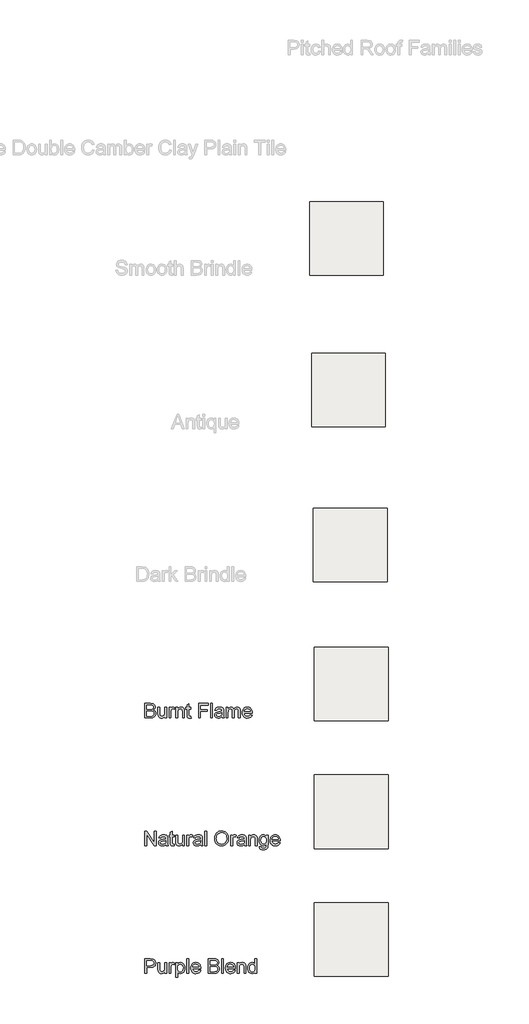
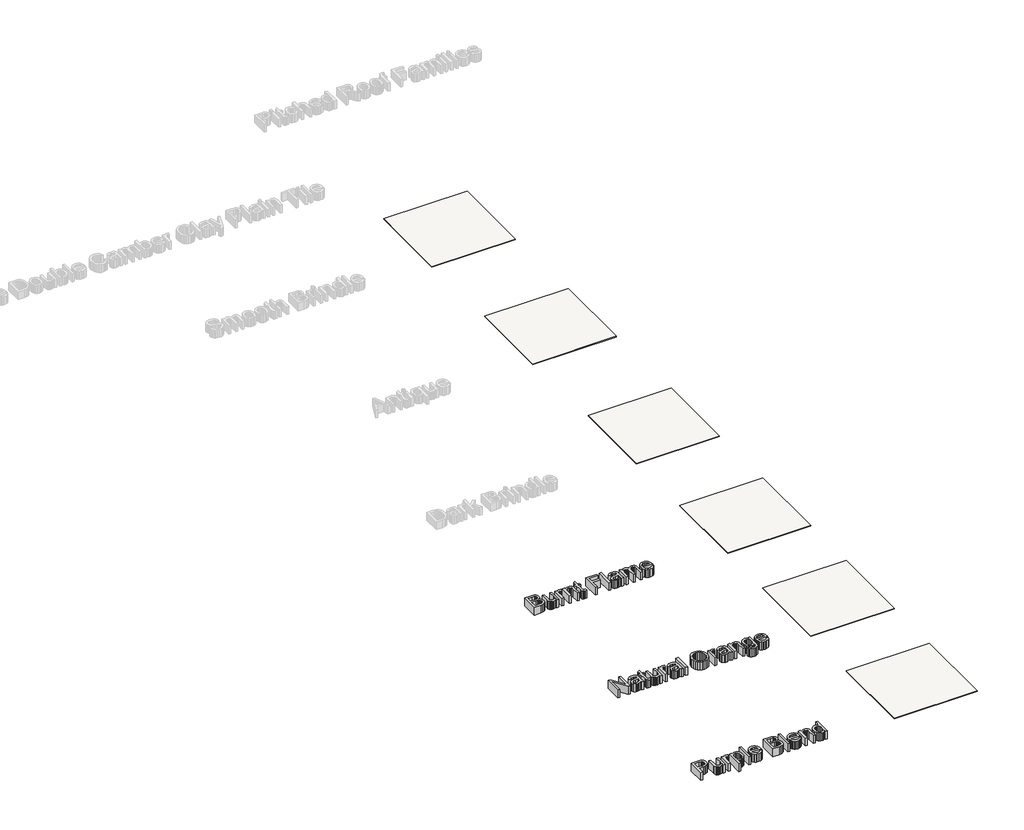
# One storey, part 1 of 4: 6 coverings, 3 proxies.
"""IFC4 building model written with IfcOpenShell, lengths in millimetres."""

from ifc_helpers import new_model, si_unit, frame, origin, place, context, project, spatial, polyline, outline, extrude, element, save

model = new_model("IFC4")

# Units and contexts
model_context = context("Model", 3, world=origin())
ifc_project = project(units=[si_unit("LENGTHUNIT", "METRE", prefix="MILLI")], contexts=[model_context])

# Site, building, storey
site = spatial("IfcSite", under=ifc_project)
building = spatial("IfcBuilding", under=site)
storey = spatial("IfcBuildingStorey", under=building, Name="Marley Clay Plain Tile", Elevation=3000.0)

# Proxies
placement = place(None, origin())
element("IfcBuildingElementProxy", 1, Name="600mm Arial", ObjectType="600mm Arial", at=placement, inside=storey, context=model_context, shape_type="SweptSolid", body=[
    extrude(outline(polyline([(-13817.1739983, -5893.9206407), (-13817.1739983, -5598.5360253), (-13704.4576522, -5598.5360253), (-13673.4570512, -5600.7085012), (-13649.2533253, -5607.2259291), (-13630.7016426, -5618.2505685), (-13616.6571714, -5633.9446791), (-13607.8140224, -5652.4062176), (-13604.866306, -5671.7331407), (-13607.3452724, -5689.5185974), (-13614.7821714, -5706.2403522), (-13627.2310897, -5720.8707608), (-13644.7461137, -5732.3821791), (-13623.8236378, -5743.3076599), (-13608.3639022, -5759.930256), (-13598.8176281, -5781.150208), (-13595.6355368, -5805.867756), (-13597.8080128, -5826.4657128), (-13604.3254406, -5845.5672753), (-13614.0520031, -5861.8112657), (-13625.8518829, -5873.836506), (-13640.3020031, -5882.5444387), (-13657.9792868, -5888.836506), (-13705.3230368, -5893.9206407), (-13817.1739983, -5893.9206407)]), holes=[polyline([(-13780.2509214, -5718.5360253), (-13712.8230368, -5718.5360253), (-13673.4480368, -5715.3629483), (-13659.6649839, -5709.8911935), (-13649.7581329, -5701.697083), (-13643.7815704, -5690.9068185), (-13641.7893829, -5677.6466022), (-13643.6463541, -5664.774006), (-13649.2172676, -5653.5600637), (-13658.2497195, -5644.8070589), (-13670.491306, -5639.3172753), (-13717.9432291, -5635.4591022), (-13780.2509214, -5635.4591022), (-13780.2509214, -5718.5360253)]), polyline([(-13780.2509214, -5856.9975637), (-13704.5297676, -5856.9975637), (-13677.1259214, -5855.555256), (-13653.9408253, -5847.5143907), (-13638.5802483, -5831.1081407), (-13634.0640224, -5819.5155926), (-13632.5586137, -5806.228333), (-13634.3254406, -5790.7956407), (-13639.6259214, -5777.5264099), (-13648.8837339, -5767.1508089), (-13662.522556, -5760.399006), (-13681.8404647, -5756.6940782), (-13708.1355368, -5755.4591022), (-13780.2509214, -5755.4591022), (-13780.2509214, -5856.9975637)])]), frame((0.0, 0.0, 3000.0), z_axis=(0.0, 0.0, 1.0), x_axis=(1.0, 0.0, 0.0)), (0.0, 0.0, 1.0), 150.0),
    extrude(outline(polyline([(-13411.0201522, -5893.9206407), (-13411.0201522, -5856.6369868), (-13424.3795272, -5874.9678161), (-13439.9384214, -5888.0612657), (-13457.6968349, -5895.9173354), (-13477.6547676, -5898.5360253), (-13495.6385416, -5896.697083), (-13512.3783253, -5891.180256), (-13526.4227964, -5882.8869868), (-13536.3206329, -5872.7187176), (-13547.3182291, -5845.5312176), (-13549.4816906, -5811.2042945), (-13549.4816906, -5676.9975637), (-13512.5586137, -5676.9975637), (-13512.5586137, -5793.8244868), (-13510.3230368, -5831.4687176), (-13504.9414262, -5844.0258089), (-13495.7196714, -5853.572083), (-13483.2707531, -5859.602732), (-13468.2076522, -5861.6129483), (-13452.2791666, -5859.5576599), (-13437.3783253, -5853.3917945), (-13425.0916666, -5843.6832608), (-13417.0057291, -5830.9999676), (-13412.5165464, -5813.6291743), (-13411.0201522, -5789.8581407), (-13411.0201522, -5676.9975637), (-13374.0970753, -5676.9975637), (-13374.0970753, -5893.9206407), (-13411.0201522, -5893.9206407)])), frame((0.0, 0.0, 3000.0), z_axis=(0.0, 0.0, 1.0), x_axis=(1.0, 0.0, 0.0)), (0.0, 0.0, 1.0), 150.0),
    extrude(outline(polyline([(-13323.3278445, -5893.9206407), (-13323.3278445, -5676.9975637), (-13291.0201522, -5676.9975637), (-13291.0201522, -5709.0889099), (-13279.085056, -5690.4831407), (-13268.0874599, -5679.5216022), (-13257.053806, -5674.1670349), (-13245.0105368, -5672.3821791), (-13226.6211137, -5675.2307368), (-13207.9432291, -5683.7764099), (-13220.2749599, -5716.8773714), (-13233.2557291, -5711.1982849), (-13246.2364983, -5709.305256), (-13257.2611378, -5711.1261695), (-13267.1139022, -5716.5889099), (-13275.0736378, -5725.2788137), (-13280.4191906, -5736.7812176), (-13284.9083733, -5757.4062176), (-13286.4047676, -5779.9062176), (-13286.4047676, -5893.9206407), (-13323.3278445, -5893.9206407)])), frame((0.0, 0.0, 3000.0), z_axis=(0.0, 0.0, 1.0), x_axis=(1.0, 0.0, 0.0)), (0.0, 0.0, 1.0), 150.0),
    extrude(outline(polyline([(-13184.866306, -5893.9206407), (-13184.866306, -5676.9975637), (-13147.9432291, -5676.9975637), (-13147.9432291, -5707.2860253), (-13135.1157051, -5692.0155926), (-13119.710056, -5681.1081407), (-13101.726282, -5674.5636695), (-13081.1643829, -5672.3821791), (-13062.9642628, -5674.1399916), (-13046.2965945, -5679.4134291), (-13032.3963541, -5687.5444387), (-13022.4985176, -5697.8749676), (-13011.428806, -5725.0264099), (-13009.4816906, -5760.7235253), (-13009.4816906, -5893.9206407), (-13046.4047676, -5893.9206407), (-13046.4047676, -5765.6994868), (-13050.6595753, -5733.0312176), (-13056.5459935, -5723.3046551), (-13065.6956329, -5715.759583), (-13077.4233974, -5710.9188378), (-13091.0441906, -5709.305256), (-13112.6697916, -5712.9290541), (-13131.1042868, -5723.8004483), (-13138.4713241, -5732.6751479), (-13143.7334935, -5744.8040541), (-13147.9432291, -5778.8244868), (-13147.9432291, -5893.9206407), (-13184.866306, -5893.9206407)])), frame((0.0, 0.0, 3000.0), z_axis=(0.0, 0.0, 1.0), x_axis=(1.0, 0.0, 0.0)), (0.0, 0.0, 1.0), 150.0),
    extrude(outline(polyline([(-12880.2509214, -5863.1273714), (-12875.6355368, -5895.0023714), (-12903.2557291, -5898.5360253), (-12920.9780849, -5897.0035733), (-12934.1932291, -5892.4062176), (-12943.5321714, -5885.320881), (-12949.6259214, -5876.3244868), (-12952.9792868, -5860.8737657), (-12954.0970753, -5834.4254483), (-12954.0970753, -5713.9206407), (-12981.7893829, -5713.9206407), (-12981.7893829, -5676.9975637), (-12954.0970753, -5676.9975637), (-12954.0970753, -5624.2812176), (-12917.1739983, -5602.5744868), (-12917.1739983, -5676.9975637), (-12880.2509214, -5676.9975637), (-12880.2509214, -5713.9206407), (-12917.1739983, -5713.9206407), (-12917.1739983, -5833.3437176), (-12915.2268829, -5852.3821791), (-12908.9167868, -5859.1249676), (-12896.3326522, -5861.6129483), (-12880.2509214, -5863.1273714)])), frame((0.0, 0.0, 3000.0), z_axis=(0.0, 0.0, 1.0), x_axis=(1.0, 0.0, 0.0)), (0.0, 0.0, 1.0), 150.0),
    extrude(outline(polyline([(-12723.3278445, -5893.9206407), (-12723.3278445, -5598.5360253), (-12524.866306, -5598.5360253), (-12524.866306, -5635.4591022), (-12686.4047676, -5635.4591022), (-12686.4047676, -5723.1514099), (-12547.9432291, -5723.1514099), (-12547.9432291, -5760.0744868), (-12686.4047676, -5760.0744868), (-12686.4047676, -5893.9206407), (-12723.3278445, -5893.9206407)])), frame((0.0, 0.0, 3000.0), z_axis=(0.0, 0.0, 1.0), x_axis=(1.0, 0.0, 0.0)), (0.0, 0.0, 1.0), 150.0),
    extrude(outline(polyline([(-12478.7124599, -5893.9206407), (-12478.7124599, -5598.5360253), (-12441.7893829, -5598.5360253), (-12441.7893829, -5893.9206407), (-12478.7124599, -5893.9206407)])), frame((0.0, 0.0, 3000.0), z_axis=(0.0, 0.0, 1.0), x_axis=(1.0, 0.0, 0.0)), (0.0, 0.0, 1.0), 150.0),
    extrude(outline(polyline([(-12247.9432291, -5866.228333), (-12265.5844551, -5881.3545349), (-12283.7485176, -5891.2523714), (-12302.8500801, -5896.7151118), (-12323.303806, -5898.5360253), (-12354.1601762, -5894.1550157), (-12376.9215945, -5881.0119868), (-12390.9570512, -5861.0540541), (-12395.6355368, -5836.228333), (-12393.8687099, -5820.9218426), (-12388.5682291, -5807.0216022), (-12380.3921474, -5795.1225637), (-12369.9985176, -5785.8196791), (-12344.1451522, -5773.7042945), (-12312.1980368, -5768.1514099), (-12274.4456329, -5762.3100637), (-12248.1595753, -5755.4591022), (-12247.9432291, -5747.2379483), (-12250.4852964, -5730.759583), (-12258.1114983, -5719.978333), (-12275.1667868, -5711.9735253), (-12298.928806, -5709.305256), (-12320.9239983, -5711.0810974), (-12336.2845753, -5716.4086214), (-12346.7593349, -5726.2613858), (-12354.0970753, -5741.6129483), (-12391.0201522, -5736.9975637), (-12384.6108974, -5716.805256), (-12375.0465945, -5700.9398714), (-12361.4348156, -5688.806458), (-12342.8831329, -5679.8100637), (-12320.1938301, -5674.2391503), (-12294.1691906, -5672.3821791), (-12269.2082531, -5674.0228041), (-12249.4215945, -5678.9446791), (-12234.5027243, -5686.3455205), (-12224.1451522, -5695.4230445), (-12217.2761618, -5706.6460012), (-12212.8230368, -5720.4831407), (-12211.0201522, -5752.790833), (-12211.0201522, -5798.728333), (-12209.1451522, -5862.8749676), (-12201.7893829, -5893.9206407), (-12238.7124599, -5893.9206407), (-12247.9432291, -5866.228333)]), holes=[polyline([(-12247.9432291, -5792.3821791), (-12307.5105368, -5803.7042945), (-12339.2773637, -5809.6898714), (-12353.6643829, -5819.4254483), (-12358.7124599, -5833.6321791), (-12355.9630608, -5844.6117464), (-12347.7148637, -5853.6081407), (-12334.148157, -5859.6117464), (-12315.4432291, -5861.6129483), (-12295.6114983, -5859.4044147), (-12278.0874599, -5852.7788137), (-12263.8807291, -5843.0161935), (-12254.0009214, -5831.3966022), (-12249.6199118, -5819.4254483), (-12248.1595753, -5802.8389099), (-12247.9432291, -5792.3821791)])]), frame((0.0, 0.0, 3000.0), z_axis=(0.0, 0.0, 1.0), x_axis=(1.0, 0.0, 0.0)), (0.0, 0.0, 1.0), 150.0),
    extrude(outline(polyline([(-12160.2509214, -5893.9206407), (-12160.2509214, -5676.9975637), (-12123.3278445, -5676.9975637), (-12123.3278445, -5712.6946791), (-12112.2220753, -5696.2974435), (-12097.9432291, -5683.4518907), (-12080.9780849, -5675.149607), (-12061.8134214, -5672.3821791), (-12041.2785656, -5675.2036935), (-12024.8182291, -5683.6682368), (-12012.522556, -5697.2169147), (-12004.4816906, -5715.290833), (-11991.023157, -5696.5182969), (-11975.6715945, -5683.1093426), (-11958.4270031, -5675.06397), (-11939.2893829, -5672.3821791), (-11911.5339743, -5676.8443185), (-11891.0081329, -5690.2307368), (-11878.3248397, -5712.9020108), (-11874.0970753, -5745.2187176), (-11874.0970753, -5893.9206407), (-11911.0201522, -5893.9206407), (-11911.0201522, -5761.0841022), (-11914.4456329, -5730.2547753), (-11919.2593349, -5721.7541743), (-11926.8494791, -5715.0744868), (-11936.6120993, -5710.7475637), (-11947.9432291, -5709.305256), (-11967.9462339, -5713.0011695), (-11984.2533253, -5724.0889099), (-11995.0976762, -5743.3256887), (-11998.7124599, -5771.4687176), (-11998.7124599, -5893.9206407), (-12035.6355368, -5893.9206407), (-12035.6355368, -5756.9735253), (-12037.7719551, -5736.0961214), (-12044.1812099, -5721.2042945), (-12055.4582531, -5712.2800157), (-12072.1980368, -5709.305256), (-12086.4227964, -5711.2884291), (-12099.5297676, -5717.2379483), (-12110.3470753, -5727.009583), (-12117.7028445, -5740.4591022), (-12121.9215945, -5759.118958), (-12123.3278445, -5784.5216022), (-12123.3278445, -5893.9206407), (-12160.2509214, -5893.9206407)])), frame((0.0, 0.0, 3000.0), z_axis=(0.0, 0.0, 1.0), x_axis=(1.0, 0.0, 0.0)), (0.0, 0.0, 1.0), 150.0),
    extrude(outline(polyline([(-11666.8374599, -5829.305256), (-11630.6355368, -5833.9206407), (-11643.679407, -5861.1982849), (-11664.4937099, -5881.5889099), (-11692.6096954, -5894.2992464), (-11727.5586137, -5898.5360253), (-11750.46877, -5896.708351), (-11770.881931, -5891.2253282), (-11788.7980969, -5882.0869568), (-11804.2172676, -5869.2932368), (-11816.6166065, -5853.200238), (-11825.4732772, -5834.1640301), (-11830.7872796, -5812.184613), (-11832.5586137, -5787.2619868), (-11830.7692507, -5761.4942584), (-11825.4011618, -5738.7824195), (-11816.4543469, -5719.12647), (-11803.928806, -5702.5264099), (-11788.5502003, -5689.3383089), (-11771.0441906, -5679.9182368), (-11751.4107772, -5674.2661935), (-11729.6499599, -5672.3821791), (-11708.590014, -5674.2616863), (-11689.5447916, -5679.900208), (-11672.5142928, -5689.297744), (-11657.4985176, -5702.4542945), (-11645.2411558, -5719.0182969), (-11636.4858974, -5738.6381887), (-11631.2327423, -5761.31397), (-11629.4816906, -5787.0456407), (-11629.6980368, -5796.9975637), (-11795.6355368, -5796.9975637), (-11789.2443108, -5824.6357849), (-11774.397556, -5844.9542945), (-11752.9702724, -5857.4482849), (-11726.8374599, -5861.6129483), (-11707.1860176, -5859.6838618), (-11690.6355368, -5853.8966022), (-11677.1860176, -5843.8905926), (-11666.8374599, -5829.305256)]), holes=[polyline([(-11795.6355368, -5760.0744868), (-11666.4047676, -5760.0744868), (-11671.3987579, -5740.5672753), (-11681.1884214, -5726.6129483), (-11702.7148637, -5713.6321791), (-11729.7941906, -5709.305256), (-11754.6830128, -5712.7577801), (-11775.2629406, -5723.1153522), (-11789.5688301, -5739.2601839), (-11795.6355368, -5760.0744868)])]), frame((0.0, 0.0, 3000.0), z_axis=(0.0, 0.0, 1.0), x_axis=(1.0, 0.0, 0.0)), (0.0, 0.0, 1.0), 150.0),
])
element("IfcBuildingElementProxy", 2, Name="600mm Arial", ObjectType="600mm Arial", at=placement, inside=storey, context=model_context, shape_type="SweptSolid", body=[
    extrude(outline(polyline([(-13817.1739983, -8493.9206407), (-13817.1739983, -8198.5360253), (-13777.6547676, -8198.5360253), (-13623.3278445, -8432.5504483), (-13623.3278445, -8198.5360253), (-13586.4047676, -8198.5360253), (-13586.4047676, -8493.9206407), (-13625.9239983, -8493.9206407), (-13780.2509214, -8259.8341022), (-13780.2509214, -8493.9206407), (-13817.1739983, -8493.9206407)])), frame((0.0, 0.0, 3000.0), z_axis=(0.0, 0.0, 1.0), x_axis=(1.0, 0.0, 0.0)), (0.0, 0.0, 1.0), 150.0),
    extrude(outline(polyline([(-13387.9432291, -8466.228333), (-13405.5844551, -8481.3545349), (-13423.7485176, -8491.2523714), (-13442.8500801, -8496.7151118), (-13463.303806, -8498.5360253), (-13494.1601762, -8494.1550157), (-13516.9215945, -8481.0119868), (-13530.9570512, -8461.0540541), (-13535.6355368, -8436.228333), (-13533.8687099, -8420.9218426), (-13528.5682291, -8407.0216022), (-13520.3921474, -8395.1225637), (-13509.9985176, -8385.8196791), (-13484.1451522, -8373.7042945), (-13452.1980368, -8368.1514099), (-13414.4456329, -8362.3100637), (-13388.1595753, -8355.4591022), (-13387.9432291, -8347.2379483), (-13390.4852964, -8330.759583), (-13398.1114983, -8319.978333), (-13415.1667868, -8311.9735253), (-13438.928806, -8309.305256), (-13460.9239983, -8311.0810974), (-13476.2845753, -8316.4086214), (-13486.7593349, -8326.2613858), (-13494.0970753, -8341.6129483), (-13531.0201522, -8336.9975637), (-13524.6108974, -8316.805256), (-13515.0465945, -8300.9398714), (-13501.4348156, -8288.806458), (-13482.8831329, -8279.8100637), (-13460.1938301, -8274.2391503), (-13434.1691906, -8272.3821791), (-13409.2082531, -8274.0228041), (-13389.4215945, -8278.9446791), (-13374.5027243, -8286.3455205), (-13364.1451522, -8295.4230445), (-13357.2761618, -8306.6460012), (-13352.8230368, -8320.4831407), (-13351.0201522, -8352.790833), (-13351.0201522, -8398.728333), (-13349.1451522, -8462.8749676), (-13341.7893829, -8493.9206407), (-13378.7124599, -8493.9206407), (-13387.9432291, -8466.228333)]), holes=[polyline([(-13387.9432291, -8392.3821791), (-13447.5105368, -8403.7042945), (-13479.2773637, -8409.6898714), (-13493.6643829, -8419.4254483), (-13498.7124599, -8433.6321791), (-13495.9630608, -8444.6117464), (-13487.7148637, -8453.6081407), (-13474.148157, -8459.6117464), (-13455.4432291, -8461.6129483), (-13435.6114983, -8459.4044147), (-13418.0874599, -8452.7788137), (-13403.8807291, -8443.0161935), (-13394.0009214, -8431.3966022), (-13389.6199118, -8419.4254483), (-13388.1595753, -8402.8389099), (-13387.9432291, -8392.3821791)])]), frame((0.0, 0.0, 3000.0), z_axis=(0.0, 0.0, 1.0), x_axis=(1.0, 0.0, 0.0)), (0.0, 0.0, 1.0), 150.0),
    extrude(outline(polyline([(-13221.7893829, -8463.1273714), (-13217.1739983, -8495.0023714), (-13244.7941906, -8498.5360253), (-13262.5165464, -8497.0035733), (-13275.7316906, -8492.4062176), (-13285.0706329, -8485.320881), (-13291.1643829, -8476.3244868), (-13294.5177483, -8460.8737657), (-13295.6355368, -8434.4254483), (-13295.6355368, -8313.9206407), (-13323.3278445, -8313.9206407), (-13323.3278445, -8276.9975637), (-13295.6355368, -8276.9975637), (-13295.6355368, -8224.2812176), (-13258.7124599, -8202.5744868), (-13258.7124599, -8276.9975637), (-13221.7893829, -8276.9975637), (-13221.7893829, -8313.9206407), (-13258.7124599, -8313.9206407), (-13258.7124599, -8433.3437176), (-13256.7653445, -8452.3821791), (-13250.4552483, -8459.1249676), (-13237.8711137, -8461.6129483), (-13221.7893829, -8463.1273714)])), frame((0.0, 0.0, 3000.0), z_axis=(0.0, 0.0, 1.0), x_axis=(1.0, 0.0, 0.0)), (0.0, 0.0, 1.0), 150.0),
    extrude(outline(polyline([(-13046.4047676, -8493.9206407), (-13046.4047676, -8456.6369868), (-13059.7641426, -8474.9678161), (-13075.3230368, -8488.0612657), (-13093.0814503, -8495.9173354), (-13113.0393829, -8498.5360253), (-13131.023157, -8496.697083), (-13147.7629406, -8491.180256), (-13161.8074118, -8482.8869868), (-13171.7052483, -8472.7187176), (-13182.7028445, -8445.5312176), (-13184.866306, -8411.2042945), (-13184.866306, -8276.9975637), (-13147.9432291, -8276.9975637), (-13147.9432291, -8393.8244868), (-13145.7076522, -8431.4687176), (-13140.3260416, -8444.0258089), (-13131.1042868, -8453.572083), (-13118.6553685, -8459.602732), (-13103.5922676, -8461.6129483), (-13087.663782, -8459.5576599), (-13072.7629406, -8453.3917945), (-13060.476282, -8443.6832608), (-13052.3903445, -8430.9999676), (-13047.9011618, -8413.6291743), (-13046.4047676, -8389.8581407), (-13046.4047676, -8276.9975637), (-13009.4816906, -8276.9975637), (-13009.4816906, -8493.9206407), (-13046.4047676, -8493.9206407)])), frame((0.0, 0.0, 3000.0), z_axis=(0.0, 0.0, 1.0), x_axis=(1.0, 0.0, 0.0)), (0.0, 0.0, 1.0), 150.0),
    extrude(outline(polyline([(-12958.7124599, -8493.9206407), (-12958.7124599, -8276.9975637), (-12926.4047676, -8276.9975637), (-12926.4047676, -8309.0889099), (-12914.4696714, -8290.4831407), (-12903.4720753, -8279.5216022), (-12892.4384214, -8274.1670349), (-12880.3951522, -8272.3821791), (-12862.0057291, -8275.2307368), (-12843.3278445, -8283.7764099), (-12855.6595753, -8316.8773714), (-12868.6403445, -8311.1982849), (-12881.6211137, -8309.305256), (-12892.6457531, -8311.1261695), (-12902.4985176, -8316.5889099), (-12910.4582531, -8325.2788137), (-12915.803806, -8336.7812176), (-12920.2929887, -8357.4062176), (-12921.7893829, -8379.9062176), (-12921.7893829, -8493.9206407), (-12958.7124599, -8493.9206407)])), frame((0.0, 0.0, 3000.0), z_axis=(0.0, 0.0, 1.0), x_axis=(1.0, 0.0, 0.0)), (0.0, 0.0, 1.0), 150.0),
    extrude(outline(polyline([(-12681.7893829, -8466.228333), (-12699.4306089, -8481.3545349), (-12717.5946714, -8491.2523714), (-12736.6962339, -8496.7151118), (-12757.1499599, -8498.5360253), (-12788.0063301, -8494.1550157), (-12810.7677483, -8481.0119868), (-12824.8032051, -8461.0540541), (-12829.4816906, -8436.228333), (-12827.7148637, -8420.9218426), (-12822.4143829, -8407.0216022), (-12814.2383012, -8395.1225637), (-12803.8446714, -8385.8196791), (-12777.991306, -8373.7042945), (-12746.0441906, -8368.1514099), (-12708.2917868, -8362.3100637), (-12682.0057291, -8355.4591022), (-12681.7893829, -8347.2379483), (-12684.3314503, -8330.759583), (-12691.9576522, -8319.978333), (-12709.0129406, -8311.9735253), (-12732.7749599, -8309.305256), (-12754.7701522, -8311.0810974), (-12770.1307291, -8316.4086214), (-12780.6054887, -8326.2613858), (-12787.9432291, -8341.6129483), (-12824.866306, -8336.9975637), (-12818.4570512, -8316.805256), (-12808.8927483, -8300.9398714), (-12795.2809695, -8288.806458), (-12776.7292868, -8279.8100637), (-12754.0399839, -8274.2391503), (-12728.0153445, -8272.3821791), (-12703.054407, -8274.0228041), (-12683.2677483, -8278.9446791), (-12668.3488781, -8286.3455205), (-12657.991306, -8295.4230445), (-12651.1223156, -8306.6460012), (-12646.6691906, -8320.4831407), (-12644.866306, -8352.790833), (-12644.866306, -8398.728333), (-12642.991306, -8462.8749676), (-12635.6355368, -8493.9206407), (-12672.5586137, -8493.9206407), (-12681.7893829, -8466.228333)]), holes=[polyline([(-12681.7893829, -8392.3821791), (-12741.3566906, -8403.7042945), (-12773.1235176, -8409.6898714), (-12787.5105368, -8419.4254483), (-12792.5586137, -8433.6321791), (-12789.8092147, -8444.6117464), (-12781.5610176, -8453.6081407), (-12767.9943108, -8459.6117464), (-12749.2893829, -8461.6129483), (-12729.4576522, -8459.4044147), (-12711.9336137, -8452.7788137), (-12697.7268829, -8443.0161935), (-12687.8470753, -8431.3966022), (-12683.4660656, -8419.4254483), (-12682.0057291, -8402.8389099), (-12681.7893829, -8392.3821791)])]), frame((0.0, 0.0, 3000.0), z_axis=(0.0, 0.0, 1.0), x_axis=(1.0, 0.0, 0.0)), (0.0, 0.0, 1.0), 150.0),
    extrude(outline(polyline([(-12594.0970753, -8493.9206407), (-12594.0970753, -8198.5360253), (-12557.1739983, -8198.5360253), (-12557.1739983, -8493.9206407), (-12594.0970753, -8493.9206407)])), frame((0.0, 0.0, 3000.0), z_axis=(0.0, 0.0, 1.0), x_axis=(1.0, 0.0, 0.0)), (0.0, 0.0, 1.0), 150.0),
    extrude(outline(polyline([(-12395.6355368, -8350.1225637), (-12393.1745993, -8315.4756286), (-12385.7917868, -8284.8040541), (-12373.4870993, -8258.1078402), (-12356.2605368, -8235.3869868), (-12335.1442507, -8217.2454604), (-12311.1703926, -8204.2872272), (-12284.3389623, -8196.5122873), (-12254.6499599, -8193.9206407), (-12215.9059695, -8198.7884291), (-12181.1643829, -8213.3917945), (-12152.3182291, -8236.7030926), (-12131.2605368, -8267.6946791), (-12118.3879406, -8304.8701599), (-12114.0970753, -8346.7331407), (-12118.6133012, -8389.1550157), (-12132.1619791, -8426.853333), (-12153.9949118, -8457.899006), (-12183.3639022, -8480.3629483), (-12217.8080128, -8493.992756), (-12254.866306, -8498.5360253), (-12294.2052483, -8493.5149916), (-12329.1451522, -8478.4518907), (-12357.9191906, -8454.7079003), (-12378.7605368, -8423.6441983), (-12391.4167868, -8387.9020108), (-12395.6355368, -8350.1225637)]), holes=[polyline([(-12358.7124599, -8350.4831407), (-12356.8667567, -8374.9618065), (-12351.3296474, -8396.6910733), (-12342.1011317, -8415.6709411), (-12329.1812099, -8431.9014099), (-12313.4758313, -8444.900208), (-12295.8909454, -8454.1850637), (-12276.4265524, -8459.7559772), (-12255.0826522, -8461.6129483), (-12233.3736678, -8459.7379483), (-12213.679407, -8454.1129483), (-12195.9998697, -8444.7379483), (-12180.335056, -8431.6129483), (-12167.5097856, -8415.0399315), (-12158.3488781, -8395.320881), (-12152.8523337, -8372.4557969), (-12151.0201522, -8346.4446791), (-12154.1571714, -8313.758381), (-12163.5682291, -8285.5071791), (-12179.0099358, -8262.4032128), (-12200.2389022, -8245.1586214), (-12225.8488781, -8234.4224435), (-12254.4336137, -8230.8437176), (-12275.0360777, -8232.567726), (-12294.1511618, -8237.7397512), (-12311.7788661, -8246.3597933), (-12327.9191906, -8258.4278522), (-12341.3912459, -8274.5253582), (-12351.0141426, -8295.2337416), (-12356.7878805, -8320.5530024), (-12358.7124599, -8350.4831407)])]), frame((0.0, 0.0, 3000.0), z_axis=(0.0, 0.0, 1.0), x_axis=(1.0, 0.0, 0.0)), (0.0, 0.0, 1.0), 150.0),
    extrude(outline(polyline([(-12067.9432291, -8493.9206407), (-12067.9432291, -8276.9975637), (-12035.6355368, -8276.9975637), (-12035.6355368, -8309.0889099), (-12023.7004406, -8290.4831407), (-12012.7028445, -8279.5216022), (-12001.6691906, -8274.1670349), (-11989.6259214, -8272.3821791), (-11971.2364983, -8275.2307368), (-11952.5586137, -8283.7764099), (-11964.8903445, -8316.8773714), (-11977.8711137, -8311.1982849), (-11990.8518829, -8309.305256), (-12001.8765224, -8311.1261695), (-12011.7292868, -8316.5889099), (-12019.6890224, -8325.2788137), (-12025.0345753, -8336.7812176), (-12029.5237579, -8357.4062176), (-12031.0201522, -8379.9062176), (-12031.0201522, -8493.9206407), (-12067.9432291, -8493.9206407)])), frame((0.0, 0.0, 3000.0), z_axis=(0.0, 0.0, 1.0), x_axis=(1.0, 0.0, 0.0)), (0.0, 0.0, 1.0), 150.0),
    extrude(outline(polyline([(-11791.0201522, -8466.228333), (-11808.6613781, -8481.3545349), (-11826.8254406, -8491.2523714), (-11845.9270031, -8496.7151118), (-11866.3807291, -8498.5360253), (-11897.2370993, -8494.1550157), (-11919.9985176, -8481.0119868), (-11934.0339743, -8461.0540541), (-11938.7124599, -8436.228333), (-11936.9456329, -8420.9218426), (-11931.6451522, -8407.0216022), (-11923.4690704, -8395.1225637), (-11913.0754406, -8385.8196791), (-11887.2220753, -8373.7042945), (-11855.2749599, -8368.1514099), (-11817.522556, -8362.3100637), (-11791.2364983, -8355.4591022), (-11791.0201522, -8347.2379483), (-11793.5622195, -8330.759583), (-11801.1884214, -8319.978333), (-11818.2437099, -8311.9735253), (-11842.0057291, -8309.305256), (-11864.0009214, -8311.0810974), (-11879.3614983, -8316.4086214), (-11889.8362579, -8326.2613858), (-11897.1739983, -8341.6129483), (-11934.0970753, -8336.9975637), (-11927.6878204, -8316.805256), (-11918.1235176, -8300.9398714), (-11904.5117387, -8288.806458), (-11885.960056, -8279.8100637), (-11863.2707531, -8274.2391503), (-11837.2461137, -8272.3821791), (-11812.2851762, -8274.0228041), (-11792.4985176, -8278.9446791), (-11777.5796474, -8286.3455205), (-11767.2220753, -8295.4230445), (-11760.3530849, -8306.6460012), (-11755.8999599, -8320.4831407), (-11754.0970753, -8352.790833), (-11754.0970753, -8398.728333), (-11752.2220753, -8462.8749676), (-11744.866306, -8493.9206407), (-11781.7893829, -8493.9206407), (-11791.0201522, -8466.228333)]), holes=[polyline([(-11791.0201522, -8392.3821791), (-11850.5874599, -8403.7042945), (-11882.3542868, -8409.6898714), (-11896.741306, -8419.4254483), (-11901.7893829, -8433.6321791), (-11899.0399839, -8444.6117464), (-11890.7917868, -8453.6081407), (-11877.2250801, -8459.6117464), (-11858.5201522, -8461.6129483), (-11838.6884214, -8459.4044147), (-11821.1643829, -8452.7788137), (-11806.9576522, -8443.0161935), (-11797.0778445, -8431.3966022), (-11792.6968349, -8419.4254483), (-11791.2364983, -8402.8389099), (-11791.0201522, -8392.3821791)])]), frame((0.0, 0.0, 3000.0), z_axis=(0.0, 0.0, 1.0), x_axis=(1.0, 0.0, 0.0)), (0.0, 0.0, 1.0), 150.0),
    extrude(outline(polyline([(-11703.3278445, -8493.9206407), (-11703.3278445, -8276.9975637), (-11666.4047676, -8276.9975637), (-11666.4047676, -8307.2860253), (-11653.5772435, -8292.0155926), (-11638.1715945, -8281.1081407), (-11620.1878204, -8274.5636695), (-11599.6259214, -8272.3821791), (-11581.4258012, -8274.1399916), (-11564.7581329, -8279.4134291), (-11550.8578926, -8287.5444387), (-11540.960056, -8297.8749676), (-11529.8903445, -8325.0264099), (-11527.9432291, -8360.7235253), (-11527.9432291, -8493.9206407), (-11564.866306, -8493.9206407), (-11564.866306, -8365.6994868), (-11569.1211137, -8333.0312176), (-11575.007532, -8323.3046551), (-11584.1571714, -8315.759583), (-11595.8849358, -8310.9188378), (-11609.5057291, -8309.305256), (-11631.1313301, -8312.9290541), (-11649.5658253, -8323.8004483), (-11656.9328625, -8332.6751479), (-11662.195032, -8344.8040541), (-11666.4047676, -8378.8244868), (-11666.4047676, -8493.9206407), (-11703.3278445, -8493.9206407)])), frame((0.0, 0.0, 3000.0), z_axis=(0.0, 0.0, 1.0), x_axis=(1.0, 0.0, 0.0)), (0.0, 0.0, 1.0), 150.0),
    extrude(outline(polyline([(-11486.4047676, -8512.3821791), (-11449.4816906, -8516.9975637), (-11445.4071714, -8528.5360253), (-11437.5105368, -8536.4687176), (-11421.9877003, -8542.634583), (-11401.6691906, -8544.6898714), (-11379.9985176, -8542.3641503), (-11363.8807291, -8535.3869868), (-11352.7028445, -8524.2091022), (-11345.8518829, -8509.2812176), (-11343.3278445, -8466.228333), (-11355.6145031, -8478.3437176), (-11369.3254406, -8486.9975637), (-11384.460657, -8492.1898714), (-11401.0201522, -8493.9206407), (-11421.2642928, -8491.9059171), (-11439.0880608, -8485.8617464), (-11454.4914563, -8475.7881286), (-11467.4744791, -8461.6850637), (-11477.7757111, -8444.7649916), (-11485.1337339, -8426.2403522), (-11491.0201522, -8384.3773714), (-11488.3789262, -8354.5666743), (-11480.4552483, -8327.1538137), (-11467.5285656, -8303.9236455), (-11449.8783253, -8286.6610253), (-11428.1084935, -8275.9518907), (-11402.8230368, -8272.3821791), (-11385.5559094, -8274.4014099), (-11369.8843349, -8280.4591022), (-11355.8083132, -8290.555256), (-11343.3278445, -8304.6898714), (-11343.3278445, -8276.9975637), (-11306.4047676, -8276.9975637), (-11306.4047676, -8464.2812176), (-11308.928806, -8507.5234051), (-11316.5009214, -8535.9999676), (-11329.5447916, -8554.8851839), (-11348.4840945, -8569.353333), (-11372.9041666, -8578.5480445), (-11402.3903445, -8581.6129483), (-11436.7443108, -8577.2950397), (-11463.7965945, -8564.3413137), (-11473.9851462, -8554.6170048), (-11481.1493589, -8542.7157128), (-11485.2892327, -8528.6374375), (-11486.4047676, -8512.3821791)]), holes=[polyline([(-11454.0970753, -8381.853333), (-11450.1577724, -8415.7205205), (-11438.3398637, -8439.0047753), (-11420.5724358, -8452.4993666), (-11398.7845753, -8456.9975637), (-11377.1589743, -8452.5264099), (-11359.3014022, -8439.1129483), (-11347.3212339, -8416.1261695), (-11343.3278445, -8382.9350637), (-11347.4384214, -8350.9248474), (-11359.7701522, -8327.8749676), (-11377.8891426, -8313.9476839), (-11399.3614983, -8309.305256), (-11420.4462339, -8313.8755685), (-11438.1235176, -8327.586506), (-11450.1036858, -8350.2938378), (-11454.0970753, -8381.853333)])]), frame((0.0, 0.0, 3000.0), z_axis=(0.0, 0.0, 1.0), x_axis=(1.0, 0.0, 0.0)), (0.0, 0.0, 1.0), 150.0),
    extrude(outline(polyline([(-11099.1451522, -8429.305256), (-11062.9432291, -8433.9206407), (-11075.9870993, -8461.1982849), (-11096.8014022, -8481.5889099), (-11124.9173878, -8494.2992464), (-11159.866306, -8498.5360253), (-11182.7764623, -8496.708351), (-11203.1896233, -8491.2253282), (-11221.1057892, -8482.0869568), (-11236.5249599, -8469.2932368), (-11248.9242988, -8453.200238), (-11257.7809695, -8434.1640301), (-11263.0949719, -8412.184613), (-11264.866306, -8387.2619868), (-11263.076943, -8361.4942584), (-11257.7088541, -8338.7824195), (-11248.7620392, -8319.12647), (-11236.2364983, -8302.5264099), (-11220.8578926, -8289.3383089), (-11203.3518829, -8279.9182368), (-11183.7184695, -8274.2661935), (-11161.9576522, -8272.3821791), (-11140.8977063, -8274.2616863), (-11121.8524839, -8279.900208), (-11104.8219851, -8289.297744), (-11089.8062099, -8302.4542945), (-11077.5488481, -8319.0182969), (-11068.7935897, -8338.6381887), (-11063.5404346, -8361.31397), (-11061.7893829, -8387.0456407), (-11062.0057291, -8396.9975637), (-11227.9432291, -8396.9975637), (-11221.5520031, -8424.6357849), (-11206.7052483, -8444.9542945), (-11185.2779647, -8457.4482849), (-11159.1451522, -8461.6129483), (-11139.4937099, -8459.6838618), (-11122.9432291, -8453.8966022), (-11109.4937099, -8443.8905926), (-11099.1451522, -8429.305256)]), holes=[polyline([(-11227.9432291, -8360.0744868), (-11098.7124599, -8360.0744868), (-11103.7064503, -8340.5672753), (-11113.4961137, -8326.6129483), (-11135.022556, -8313.6321791), (-11162.1018829, -8309.305256), (-11186.9907051, -8312.7577801), (-11207.5706329, -8323.1153522), (-11221.8765224, -8339.2601839), (-11227.9432291, -8360.0744868)])]), frame((0.0, 0.0, 3000.0), z_axis=(0.0, 0.0, 1.0), x_axis=(1.0, 0.0, 0.0)), (0.0, 0.0, 1.0), 150.0),
])
element("IfcBuildingElementProxy", 3, Name="600mm Arial", ObjectType="600mm Arial", at=placement, inside=storey, context=model_context, shape_type="SweptSolid", body=[
    extrude(outline(polyline([(-13817.1739983, -11093.9206407), (-13817.1739983, -10798.5360253), (-13707.7028445, -10798.5360253), (-13663.5682291, -10801.3485253), (-13643.8897435, -10806.6039339), (-13627.6908253, -10815.1586214), (-13614.6469551, -10827.400208), (-13604.4336137, -10843.7163137), (-13597.835056, -10862.962107), (-13595.6355368, -10883.992756), (-13601.5760416, -10918.806458), (-13609.0016726, -10934.0363257), (-13619.397556, -10947.8148714), (-13633.6696414, -10959.2361455), (-13652.7238781, -10967.3941983), (-13676.5602664, -10972.2890301), (-13705.178806, -10973.9206407), (-13780.2509214, -10973.9206407), (-13780.2509214, -11093.9206407), (-13817.1739983, -11093.9206407)]), holes=[polyline([(-13780.2509214, -10936.9975637), (-13703.0153445, -10936.9975637), (-13670.2749599, -10933.6081407), (-13648.6403445, -10923.4398714), (-13636.5790464, -10907.1237657), (-13632.5586137, -10885.290833), (-13634.929407, -10868.7042945), (-13642.0417868, -10854.7139099), (-13653.0123397, -10844.1850637), (-13666.9576522, -10837.9831407), (-13703.8807291, -10835.4591022), (-13780.2509214, -10835.4591022), (-13780.2509214, -10936.9975637)])]), frame((0.0, 0.0, 3000.0), z_axis=(0.0, 0.0, 1.0), x_axis=(1.0, 0.0, 0.0)), (0.0, 0.0, 1.0), 150.0),
    extrude(outline(polyline([(-13411.0201522, -11093.9206407), (-13411.0201522, -11056.6369868), (-13424.3795272, -11074.9678161), (-13439.9384214, -11088.0612657), (-13457.6968349, -11095.9173354), (-13477.6547676, -11098.5360253), (-13495.6385416, -11096.697083), (-13512.3783253, -11091.180256), (-13526.4227964, -11082.8869868), (-13536.3206329, -11072.7187176), (-13547.3182291, -11045.5312176), (-13549.4816906, -11011.2042945), (-13549.4816906, -10876.9975637), (-13512.5586137, -10876.9975637), (-13512.5586137, -10993.8244868), (-13510.3230368, -11031.4687176), (-13504.9414262, -11044.0258089), (-13495.7196714, -11053.572083), (-13483.2707531, -11059.602732), (-13468.2076522, -11061.6129483), (-13452.2791666, -11059.5576599), (-13437.3783253, -11053.3917945), (-13425.0916666, -11043.6832608), (-13417.0057291, -11030.9999676), (-13412.5165464, -11013.6291743), (-13411.0201522, -10989.8581407), (-13411.0201522, -10876.9975637), (-13374.0970753, -10876.9975637), (-13374.0970753, -11093.9206407), (-13411.0201522, -11093.9206407)])), frame((0.0, 0.0, 3000.0), z_axis=(0.0, 0.0, 1.0), x_axis=(1.0, 0.0, 0.0)), (0.0, 0.0, 1.0), 150.0),
    extrude(outline(polyline([(-13323.3278445, -11093.9206407), (-13323.3278445, -10876.9975637), (-13291.0201522, -10876.9975637), (-13291.0201522, -10909.0889099), (-13279.085056, -10890.4831407), (-13268.0874599, -10879.5216022), (-13257.053806, -10874.1670349), (-13245.0105368, -10872.3821791), (-13226.6211137, -10875.2307368), (-13207.9432291, -10883.7764099), (-13220.2749599, -10916.8773714), (-13233.2557291, -10911.1982849), (-13246.2364983, -10909.305256), (-13257.2611378, -10911.1261695), (-13267.1139022, -10916.5889099), (-13275.0736378, -10925.2788137), (-13280.4191906, -10936.7812176), (-13284.9083733, -10957.4062176), (-13286.4047676, -10979.9062176), (-13286.4047676, -11093.9206407), (-13323.3278445, -11093.9206407)])), frame((0.0, 0.0, 3000.0), z_axis=(0.0, 0.0, 1.0), x_axis=(1.0, 0.0, 0.0)), (0.0, 0.0, 1.0), 150.0),
    extrude(outline(polyline([(-13184.866306, -11176.9975637), (-13184.866306, -10876.9975637), (-13147.9432291, -10876.9975637), (-13147.9432291, -10913.1994868), (-13135.8999599, -10895.3419147), (-13122.4143829, -10882.586506), (-13106.6932291, -10874.9332608), (-13087.9432291, -10872.3821791), (-13062.9732772, -10875.9518907), (-13041.1403445, -10886.6610253), (-13023.3639022, -10903.8605445), (-13010.5634214, -10926.9014099), (-13002.8290464, -10954.1069387), (-13000.2509214, -10983.8004483), (-13003.1625801, -11015.3779724), (-13011.897556, -11043.6201599), (-13026.1764022, -11067.0937176), (-13045.7196714, -11084.3653522), (-13068.4810897, -11094.993357), (-13092.4143829, -11098.5360253), (-13109.3885416, -11096.165232), (-13124.5417868, -11089.0528522), (-13137.5135416, -11078.3166743), (-13147.9432291, -11065.0744868), (-13147.9432291, -11176.9975637), (-13184.866306, -11176.9975637)]), holes=[polyline([(-13147.9432291, -10987.1898714), (-13143.9498397, -11020.290833), (-13131.9696714, -11043.4398714), (-13114.2923878, -11057.0696791), (-13093.2076522, -11061.6129483), (-13071.7803685, -11056.9074195), (-13053.6523637, -11042.790833), (-13041.2935897, -11018.7944387), (-13037.1739983, -10984.4494868), (-13041.194431, -10951.5288137), (-13053.2557291, -10928.055256), (-13070.9059695, -10913.992756), (-13091.6932291, -10909.305256), (-13112.5616185, -10914.290232), (-13130.8879406, -10929.2451599), (-13143.679407, -10953.7012897), (-13147.9432291, -10987.1898714)])]), frame((0.0, 0.0, 3000.0), z_axis=(0.0, 0.0, 1.0), x_axis=(1.0, 0.0, 0.0)), (0.0, 0.0, 1.0), 150.0),
    extrude(outline(polyline([(-12958.7124599, -11093.9206407), (-12958.7124599, -10798.5360253), (-12921.7893829, -10798.5360253), (-12921.7893829, -11093.9206407), (-12958.7124599, -11093.9206407)])), frame((0.0, 0.0, 3000.0), z_axis=(0.0, 0.0, 1.0), x_axis=(1.0, 0.0, 0.0)), (0.0, 0.0, 1.0), 150.0),
    extrude(outline(polyline([(-12714.5297676, -11029.305256), (-12678.3278445, -11033.9206407), (-12691.3717147, -11061.1982849), (-12712.1860176, -11081.5889099), (-12740.3020031, -11094.2992464), (-12775.2509214, -11098.5360253), (-12798.1610777, -11096.708351), (-12818.5742387, -11091.2253282), (-12836.4904046, -11082.0869568), (-12851.9095753, -11069.2932368), (-12864.3089142, -11053.200238), (-12873.1655849, -11034.1640301), (-12878.4795873, -11012.184613), (-12880.2509214, -10987.2619868), (-12878.4615584, -10961.4942584), (-12873.0934695, -10938.7824195), (-12864.1466546, -10919.12647), (-12851.6211137, -10902.5264099), (-12836.2425079, -10889.3383089), (-12818.7364983, -10879.9182368), (-12799.1030849, -10874.2661935), (-12777.3422676, -10872.3821791), (-12756.2823217, -10874.2616863), (-12737.2370993, -10879.900208), (-12720.2066005, -10889.297744), (-12705.1908253, -10902.4542945), (-12692.9334635, -10919.0182969), (-12684.1782051, -10938.6381887), (-12678.92505, -10961.31397), (-12677.1739983, -10987.0456407), (-12677.3903445, -10996.9975637), (-12843.3278445, -10996.9975637), (-12836.9366185, -11024.6357849), (-12822.0898637, -11044.9542945), (-12800.6625801, -11057.4482849), (-12774.5297676, -11061.6129483), (-12754.8783253, -11059.6838618), (-12738.3278445, -11053.8966022), (-12724.8783253, -11043.8905926), (-12714.5297676, -11029.305256)]), holes=[polyline([(-12843.3278445, -10960.0744868), (-12714.0970753, -10960.0744868), (-12719.0910656, -10940.5672753), (-12728.8807291, -10926.6129483), (-12750.4071714, -10913.6321791), (-12777.4864983, -10909.305256), (-12802.3753204, -10912.7577801), (-12822.9552483, -10923.1153522), (-12837.2611378, -10939.2601839), (-12843.3278445, -10960.0744868)])]), frame((0.0, 0.0, 3000.0), z_axis=(0.0, 0.0, 1.0), x_axis=(1.0, 0.0, 0.0)), (0.0, 0.0, 1.0), 150.0),
    extrude(outline(polyline([(-12520.2509214, -11093.9206407), (-12520.2509214, -10798.5360253), (-12407.5345753, -10798.5360253), (-12376.5339743, -10800.7085012), (-12352.3302483, -10807.2259291), (-12333.7785656, -10818.2505685), (-12319.7340945, -10833.9446791), (-12310.8909454, -10852.4062176), (-12307.9432291, -10871.7331407), (-12310.4221954, -10889.5185974), (-12317.8590945, -10906.2403522), (-12330.3080128, -10920.8707608), (-12347.8230368, -10932.3821791), (-12326.9005608, -10943.3076599), (-12311.4408253, -10959.930256), (-12301.8945512, -10981.150208), (-12298.7124599, -11005.867756), (-12300.8849358, -11026.4657128), (-12307.4023637, -11045.5672753), (-12317.1289262, -11061.8112657), (-12328.928806, -11073.836506), (-12343.3789262, -11082.5444387), (-12361.0562099, -11088.836506), (-12408.3999599, -11093.9206407), (-12520.2509214, -11093.9206407)]), holes=[polyline([(-12483.3278445, -10918.5360253), (-12415.8999599, -10918.5360253), (-12376.5249599, -10915.3629483), (-12362.741907, -10909.8911935), (-12352.835056, -10901.697083), (-12346.8584935, -10890.9068185), (-12344.866306, -10877.6466022), (-12346.7232772, -10864.774006), (-12352.2941906, -10853.5600637), (-12361.3266426, -10844.8070589), (-12373.5682291, -10839.3172753), (-12421.0201522, -10835.4591022), (-12483.3278445, -10835.4591022), (-12483.3278445, -10918.5360253)]), polyline([(-12483.3278445, -11056.9975637), (-12407.6066906, -11056.9975637), (-12380.2028445, -11055.555256), (-12357.0177483, -11047.5143907), (-12341.6571714, -11031.1081407), (-12337.1409454, -11019.5155926), (-12335.6355368, -11006.228333), (-12337.4023637, -10990.7956407), (-12342.7028445, -10977.5264099), (-12351.960657, -10967.1508089), (-12365.5994791, -10960.399006), (-12384.9173878, -10956.6940782), (-12411.2124599, -10955.4591022), (-12483.3278445, -10955.4591022), (-12483.3278445, -11056.9975637)])]), frame((0.0, 0.0, 3000.0), z_axis=(0.0, 0.0, 1.0), x_axis=(1.0, 0.0, 0.0)), (0.0, 0.0, 1.0), 150.0),
    extrude(outline(polyline([(-12252.5586137, -11093.9206407), (-12252.5586137, -10798.5360253), (-12215.6355368, -10798.5360253), (-12215.6355368, -11093.9206407), (-12252.5586137, -11093.9206407)])), frame((0.0, 0.0, 3000.0), z_axis=(0.0, 0.0, 1.0), x_axis=(1.0, 0.0, 0.0)), (0.0, 0.0, 1.0), 150.0),
    extrude(outline(polyline([(-12008.3759214, -11029.305256), (-11972.1739983, -11033.9206407), (-11985.2178685, -11061.1982849), (-12006.0321714, -11081.5889099), (-12034.148157, -11094.2992464), (-12069.0970753, -11098.5360253), (-12092.0072315, -11096.708351), (-12112.4203926, -11091.2253282), (-12130.3365584, -11082.0869568), (-12145.7557291, -11069.2932368), (-12158.155068, -11053.200238), (-12167.0117387, -11034.1640301), (-12172.3257411, -11012.184613), (-12174.0970753, -10987.2619868), (-12172.3077123, -10961.4942584), (-12166.9396233, -10938.7824195), (-12157.9928084, -10919.12647), (-12145.4672676, -10902.5264099), (-12130.0886618, -10889.3383089), (-12112.5826522, -10879.9182368), (-12092.9492387, -10874.2661935), (-12071.1884214, -10872.3821791), (-12050.1284755, -10874.2616863), (-12031.0832531, -10879.900208), (-12014.0527543, -10889.297744), (-11999.0369791, -10902.4542945), (-11986.7796173, -10919.0182969), (-11978.0243589, -10938.6381887), (-11972.7712039, -10961.31397), (-11971.0201522, -10987.0456407), (-11971.2364983, -10996.9975637), (-12137.1739983, -10996.9975637), (-12130.7827724, -11024.6357849), (-12115.9360176, -11044.9542945), (-12094.5087339, -11057.4482849), (-12068.3759214, -11061.6129483), (-12048.7244791, -11059.6838618), (-12032.1739983, -11053.8966022), (-12018.7244791, -11043.8905926), (-12008.3759214, -11029.305256)]), holes=[polyline([(-12137.1739983, -10960.0744868), (-12007.9432291, -10960.0744868), (-12012.9372195, -10940.5672753), (-12022.7268829, -10926.6129483), (-12044.2533253, -10913.6321791), (-12071.3326522, -10909.305256), (-12096.2214743, -10912.7577801), (-12116.8014022, -10923.1153522), (-12131.1072916, -10939.2601839), (-12137.1739983, -10960.0744868)])]), frame((0.0, 0.0, 3000.0), z_axis=(0.0, 0.0, 1.0), x_axis=(1.0, 0.0, 0.0)), (0.0, 0.0, 1.0), 150.0),
    extrude(outline(polyline([(-11934.0970753, -11093.9206407), (-11934.0970753, -10876.9975637), (-11897.1739983, -10876.9975637), (-11897.1739983, -10907.2860253), (-11884.3464743, -10892.0155926), (-11868.9408253, -10881.1081407), (-11850.9570512, -10874.5636695), (-11830.3951522, -10872.3821791), (-11812.195032, -10874.1399916), (-11795.5273637, -10879.4134291), (-11781.6271233, -10887.5444387), (-11771.7292868, -10897.8749676), (-11760.6595753, -10925.0264099), (-11758.7124599, -10960.7235253), (-11758.7124599, -11093.9206407), (-11795.6355368, -11093.9206407), (-11795.6355368, -10965.6994868), (-11799.8903445, -10933.0312176), (-11805.7767628, -10923.3046551), (-11814.9264022, -10915.759583), (-11826.6541666, -10910.9188378), (-11840.2749599, -10909.305256), (-11861.9005608, -10912.9290541), (-11880.335056, -10923.8004483), (-11887.7020933, -10932.6751479), (-11892.9642628, -10944.8040541), (-11897.1739983, -10978.8244868), (-11897.1739983, -11093.9206407), (-11934.0970753, -11093.9206407)])), frame((0.0, 0.0, 3000.0), z_axis=(0.0, 0.0, 1.0), x_axis=(1.0, 0.0, 0.0)), (0.0, 0.0, 1.0), 150.0),
    extrude(outline(polyline([(-11574.0970753, -11093.9206407), (-11574.0970753, -11059.0889099), (-11585.1442507, -11076.3470229), (-11598.5261618, -11088.6742464), (-11614.2428084, -11096.0705806), (-11632.2941906, -11098.5360253), (-11656.1643829, -11094.9663137), (-11678.0153445, -11084.2571791), (-11696.5129406, -11067.1568185), (-11710.3230368, -11044.4134291), (-11718.9227964, -11016.946482), (-11721.7893829, -10985.6754483), (-11719.148157, -10954.7920349), (-11711.2244791, -10926.9014099), (-11698.0273637, -10903.5901118), (-11679.5658253, -10886.4446791), (-11657.2370993, -10875.8978041), (-11632.4384214, -10872.3821791), (-11614.3735176, -10874.8972032), (-11598.3999599, -10882.4422753), (-11584.8602964, -10894.0077801), (-11574.0970753, -10908.5841022), (-11574.0970753, -10798.5360253), (-11537.1739983, -10798.5360253), (-11537.1739983, -11093.9206407), (-11574.0970753, -11093.9206407)]), holes=[polyline([(-11684.866306, -10985.5312176), (-11680.7016426, -11018.9296551), (-11668.2076522, -11042.6826599), (-11650.0526041, -11056.8803762), (-11628.9047676, -11061.6129483), (-11607.7659454, -11057.0967224), (-11590.0706329, -11043.5480445), (-11578.0904647, -11020.7145108), (-11574.0970753, -10988.3437176), (-11578.1625801, -10952.9530926), (-11590.3590945, -10928.415833), (-11608.5051281, -10914.0829003), (-11630.4191906, -10909.305256), (-11651.7833733, -10913.8935974), (-11669.2893829, -10927.6586214), (-11680.9720753, -10951.3034532), (-11684.866306, -10985.5312176)])]), frame((0.0, 0.0, 3000.0), z_axis=(0.0, 0.0, 1.0), x_axis=(1.0, 0.0, 0.0)), (0.0, 0.0, 1.0), 150.0),
])

# Coverings
element("IfcCovering", 4, ObjectType="Marley_ClayPlainTile_AcmeDC-SmoothBrindle", at=placement, inside=storey, context=model_context, shape_type="SweptSolid", body=[
    extrude(outline(polyline([(-10462.2593648, 3116.4272004), (-10462.2593648, 4616.4272004), (-8962.2593648, 4616.4272004), (-8962.2593648, 3116.4272004), (-10462.2593648, 3116.4272004)])), frame((0.0, 0.0, 3000.0), z_axis=(0.0, 0.0, 1.0), x_axis=(1.0, 0.0, 0.0)), (0.0, 0.0, 1.0), 11.0),
])
element("IfcCovering", 5, ObjectType="Marley_ClayPlainTile_AcmeDC-Antique", at=placement, inside=storey, context=model_context, shape_type="SweptSolid", body=[
    extrude(outline(polyline([(-10420.9604055, 30.6913333), (-10420.9604055, 1530.6913333), (-8920.9604055, 1530.6913333), (-8920.9604055, 30.6913333), (-10420.9604055, 30.6913333)])), frame((0.0, 0.0, 3000.0), z_axis=(0.0, 0.0, 1.0), x_axis=(1.0, 0.0, 0.0)), (0.0, 0.0, 1.0), 11.0),
])
element("IfcCovering", 6, ObjectType="Marley_ClayPlainTile_AcmeDC-DarkBrindle", at=placement, inside=storey, context=model_context, shape_type="SweptSolid", body=[
    extrude(outline(polyline([(-10383.0091665, -3121.9750451), (-10383.0091665, -1621.9750451), (-8883.0091665, -1621.9750451), (-8883.0091665, -3121.9750451), (-10383.0091665, -3121.9750451)])), frame((0.0, 0.0, 3000.0), z_axis=(0.0, 0.0, 1.0), x_axis=(1.0, 0.0, 0.0)), (0.0, 0.0, 1.0), 11.0),
])
element("IfcCovering", 7, ObjectType="Marley_ClayPlainTile_AcmeDC-BurntFlame", at=placement, inside=storey, context=model_context, shape_type="SweptSolid", body=[
    extrude(outline(polyline([(-10364.9723128, -5951.7401202), (-10364.9723128, -4451.7401202), (-8864.9723128, -4451.7401202), (-8864.9723128, -5951.7401202), (-10364.9723128, -5951.7401202)])), frame((0.0, 0.0, 3000.0), z_axis=(0.0, 0.0, 1.0), x_axis=(1.0, 0.0, 0.0)), (0.0, 0.0, 1.0), 11.0),
])
element("IfcCovering", 8, ObjectType="Marley_ClayPlainTile_AcmeDC-NaturalOrange", at=placement, inside=storey, context=model_context, shape_type="SweptSolid", body=[
    extrude(outline(polyline([(-10364.9723128, -8551.7401202), (-10364.9723128, -7051.7401202), (-8864.9723128, -7051.7401202), (-8864.9723128, -8551.7401202), (-10364.9723128, -8551.7401202)])), frame((0.0, 0.0, 3000.0), z_axis=(0.0, 0.0, 1.0), x_axis=(1.0, 0.0, 0.0)), (0.0, 0.0, 1.0), 11.0),
])
element("IfcCovering", 9, ObjectType="Marley_ClayPlainTile_AcmeDC-PurpleBlend", at=placement, inside=storey, context=model_context, shape_type="SweptSolid", body=[
    extrude(outline(polyline([(-10364.9723128, -11151.7401202), (-10364.9723128, -9651.7401202), (-8864.9723128, -9651.7401202), (-8864.9723128, -11151.7401202), (-10364.9723128, -11151.7401202)])), frame((0.0, 0.0, 3000.0), z_axis=(0.0, 0.0, 1.0), x_axis=(1.0, 0.0, 0.0)), (0.0, 0.0, 1.0), 11.0),
])

save(model, "model.ifc")
